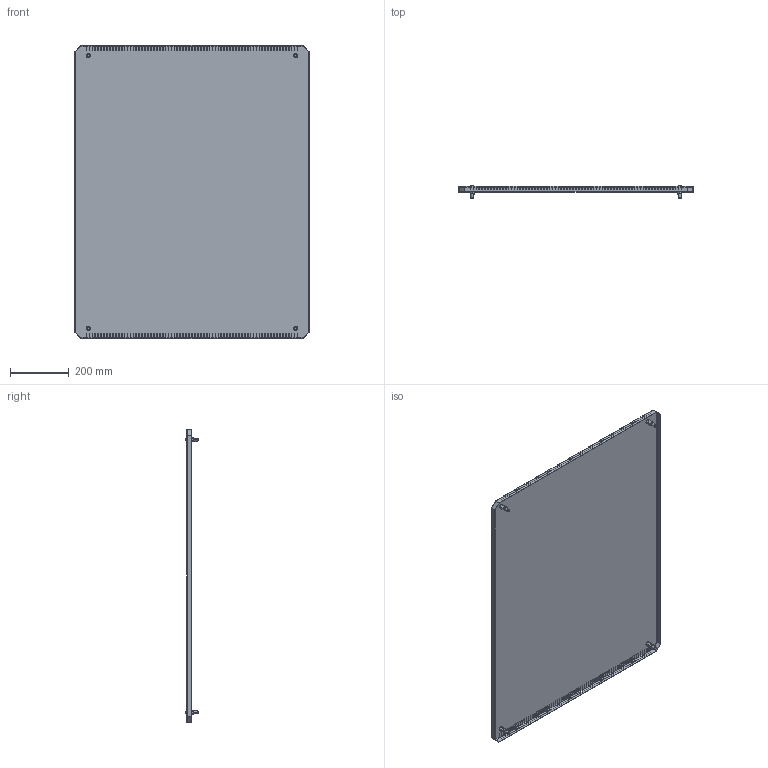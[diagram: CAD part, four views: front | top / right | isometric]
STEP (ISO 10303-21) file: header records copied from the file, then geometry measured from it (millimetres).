
FILE_DESCRIPTION (( 'STEP AP203' ), '1' );
FILE_NAME ('R 80.100 I Ïàíåëü òåëåêîììóíèêàöèîííàÿ ïîòîëî÷íàÿ.STEP', '2013-01-12T08:46:40', ( 'System' ), ( '' ), 'SwSTEP 2.0', 'SolidWorks 2012', '' );
FILE_SCHEMA (( 'CONFIG_CONTROL_DESIGN' ));
Products named in the file (1): R 80.100 I Ïàíåëü òåëåêîììóíèêàöèîííàÿ ïîòîëî÷íàÿ
Bounding box: 800 x 42.72 x 1000 mm (x, y, z)
Volume: 1034651.6 mm3; surface area: 1716818.6 mm2
Topology: 5 solids, 9 shells, 1754 faces, 4752 edges, 2728 vertices
Faces by surface type: plane 1310, cylinder 348, cone 56, bspline 16, torus 16, sphere 8
Entity records: 54709 total; most frequent: CARTESIAN_POINT 10615, ORIENTED_EDGE 9472, DIRECTION 8896, EDGE_CURVE 4736, VECTOR 3818, LINE 3818, VERTEX_POINT 2728, AXIS2_PLACEMENT_3D 2539
